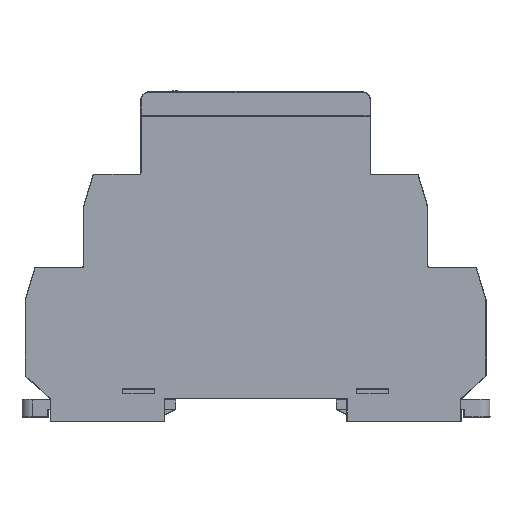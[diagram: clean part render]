
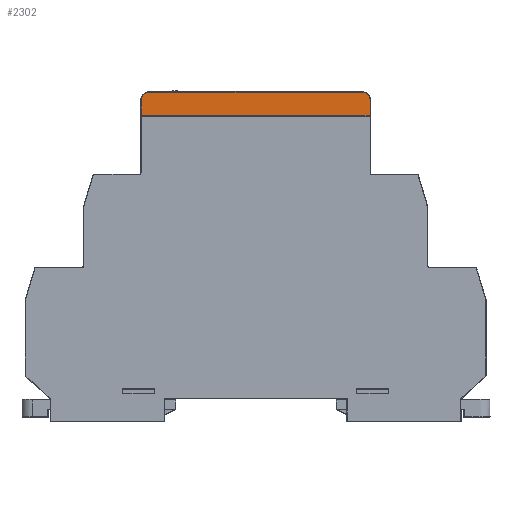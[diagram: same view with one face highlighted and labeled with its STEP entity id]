
A CAD part, left-side view. The second image highlights one B-rep face of the part: STEP entity #2302.
In plain terms, the highlighted planar face has unit normal (1, 0, 0).
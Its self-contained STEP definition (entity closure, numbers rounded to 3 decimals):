
#2302=ADVANCED_FACE('',(#4292),#31037,.T.);
#4292=FACE_OUTER_BOUND('',#6339,.T.);
#6339=EDGE_LOOP('',(#15911,#15912));
#15911=ORIENTED_EDGE('',*,*,#21030,.T.);
#15912=ORIENTED_EDGE('',*,*,#21018,.F.);
#21018=EDGE_CURVE('',#29117,#29122,#26101,.T.);
#21030=EDGE_CURVE('',#29117,#29122,#26111,.T.);
#26101=(
BOUNDED_CURVE()
B_SPLINE_CURVE(3,(#79857,#79858,#79859,#79860,#79861,#79862,#79863,#79864,
#79865,#79866,#79867,#79868,#79869,#79870,#79871,#79872,#79873,#79874,#79875,
#79876,#79877,#79878,#79879,#79880,#79881,#79882,#79883,#79884,#79885,#79886,
#79887,#79888,#79889,#79890),.UNSPECIFIED.,.F.,.F.)
B_SPLINE_CURVE_WITH_KNOTS((4,3,3,3,3,3,3,3,3,3,3,4),(0.1,
3.15,3.679,4.251,4.827,5.428,
47.128,47.656,48.229,48.804,49.405,
52.455),.UNSPECIFIED.)
CURVE()
GEOMETRIC_REPRESENTATION_ITEM()
RATIONAL_B_SPLINE_CURVE((1.,1.,1.,1.,
1.,1.,1.,1.,1.,
1.,1.,1.,1.,1.,
1.,1.,1.,1.,1.,
1.,1.,1.,1.,1.,
1.,1.,1.,1.,1.,
1.,1.,1.,1.,1.))
REPRESENTATION_ITEM('')
);
#26111=(
BOUNDED_CURVE()
B_SPLINE_CURVE(3,(#79934,#79935,#79936,#79937),.UNSPECIFIED.,.F.,.F.)
B_SPLINE_CURVE_WITH_KNOTS((4,4),(0.1,44.7),.UNSPECIFIED.)
CURVE()
GEOMETRIC_REPRESENTATION_ITEM()
RATIONAL_B_SPLINE_CURVE((1.,1.,1.,1.))
REPRESENTATION_ITEM('')
);
#29117=VERTEX_POINT('',#79732);
#29122=VERTEX_POINT('',#79737);
#31037=PLANE('',#32042);
#32042=AXIS2_PLACEMENT_3D('',#79260,#33032,$);
#33032=DIRECTION('',(1.,0.,0.));
#79260=CARTESIAN_POINT('',(-0.06,-26.772,54.77));
#79732=CARTESIAN_POINT('',(-0.06,-22.3,55.232));
#79737=CARTESIAN_POINT('',(-0.06,22.3,55.232));
#79857=CARTESIAN_POINT('',(-0.06,-22.3,55.232));
#79858=CARTESIAN_POINT('',(-0.06,-22.3,56.249));
#79859=CARTESIAN_POINT('',(-0.06,-22.3,57.265));
#79860=CARTESIAN_POINT('',(-0.06,-22.3,58.282));
#79861=CARTESIAN_POINT('',(-0.06,-22.3,58.458));
#79862=CARTESIAN_POINT('',(-0.06,-22.268,58.634));
#79863=CARTESIAN_POINT('',(-0.06,-22.205,58.799));
#79864=CARTESIAN_POINT('',(-0.06,-22.137,58.977));
#79865=CARTESIAN_POINT('',(-0.06,-22.033,59.142));
#79866=CARTESIAN_POINT('',(-0.06,-21.902,59.28));
#79867=CARTESIAN_POINT('',(-0.06,-21.769,59.42));
#79868=CARTESIAN_POINT('',(-0.06,-21.609,59.532));
#79869=CARTESIAN_POINT('',(-0.06,-21.434,59.609));
#79870=CARTESIAN_POINT('',(-0.06,-21.25,59.69));
#79871=CARTESIAN_POINT('',(-0.06,-21.05,59.732));
#79872=CARTESIAN_POINT('',(-0.06,-20.85,59.732));
#79873=CARTESIAN_POINT('',(-0.06,-6.95,59.732));
#79874=CARTESIAN_POINT('',(-0.06,6.95,59.732));
#79875=CARTESIAN_POINT('',(-0.06,20.85,59.732));
#79876=CARTESIAN_POINT('',(-0.06,21.026,59.732));
#79877=CARTESIAN_POINT('',(-0.06,21.202,59.7));
#79878=CARTESIAN_POINT('',(-0.06,21.367,59.637));
#79879=CARTESIAN_POINT('',(-0.06,21.545,59.569));
#79880=CARTESIAN_POINT('',(-0.06,21.71,59.465));
#79881=CARTESIAN_POINT('',(-0.06,21.848,59.333));
#79882=CARTESIAN_POINT('',(-0.06,21.988,59.201));
#79883=CARTESIAN_POINT('',(-0.06,22.1,59.041));
#79884=CARTESIAN_POINT('',(-0.06,22.177,58.866));
#79885=CARTESIAN_POINT('',(-0.06,22.258,58.682));
#79886=CARTESIAN_POINT('',(-0.06,22.3,58.482));
#79887=CARTESIAN_POINT('',(-0.06,22.3,58.282));
#79888=CARTESIAN_POINT('',(-0.06,22.3,57.265));
#79889=CARTESIAN_POINT('',(-0.06,22.3,56.249));
#79890=CARTESIAN_POINT('',(-0.06,22.3,55.232));
#79934=CARTESIAN_POINT('',(-0.06,-22.3,55.232));
#79935=CARTESIAN_POINT('',(-0.06,-7.433,55.232));
#79936=CARTESIAN_POINT('',(-0.06,7.433,55.232));
#79937=CARTESIAN_POINT('',(-0.06,22.3,55.232));
